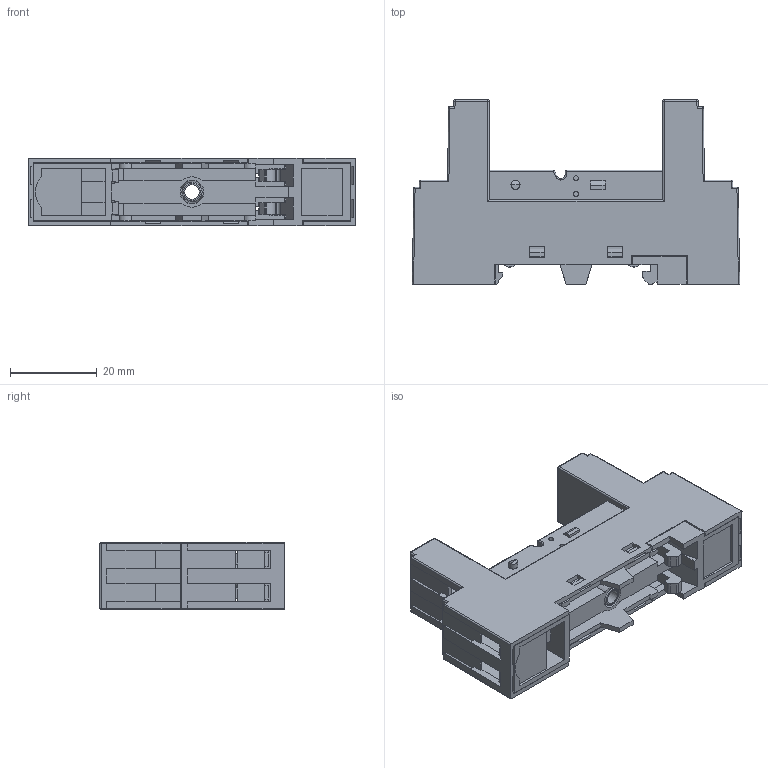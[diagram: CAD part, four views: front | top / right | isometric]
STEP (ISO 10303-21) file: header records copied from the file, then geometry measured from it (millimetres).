
FILE_DESCRIPTION(/* description */ (''),/* implementation_level */ '2;1');
FILE_NAME(/* name */ '14f-2z-c2.stp',/* time_stamp */ '2024-02-26T15:55:20+08:00',/* author */ (''),/* organization */ (''),/* preprocessor_version */ 'ST-DEVELOPER v11',/* originating_system */ 'SIEMENS UGS NX 6.0',/* authorisation */ '');
FILE_SCHEMA (('CONFIG_CONTROL_DESIGN'));
Products named in the file (1): 14f-2z-c2
Bounding box: 75.5 x 42.5 x 15.6 mm (x, y, z)
Volume: 12825.2 mm3; surface area: 23557.9 mm2
Topology: 19 solids, 20 shells, 887 faces, 2377 edges, 1536 vertices
Faces by surface type: plane 706, cylinder 139, bspline 24, sphere 12, torus 4, cone 2
Full cylindrical faces by diameter (mm): 1.16 x4, 2 x8, 2.1 x2, 2.5 x8, 3 x8, 3.3 x1, 3.9 x2, 5.4 x1, 5.5 x8, 6 x1
Entity records: 48069 total; most frequent: CARTESIAN_POINT 26084, ORIENTED_EDGE 4602, DIRECTION 4221, EDGE_CURVE 2301, LINE 1881, VECTOR 1881, VERTEX_POINT 1535, AXIS2_PLACEMENT_3D 1170
